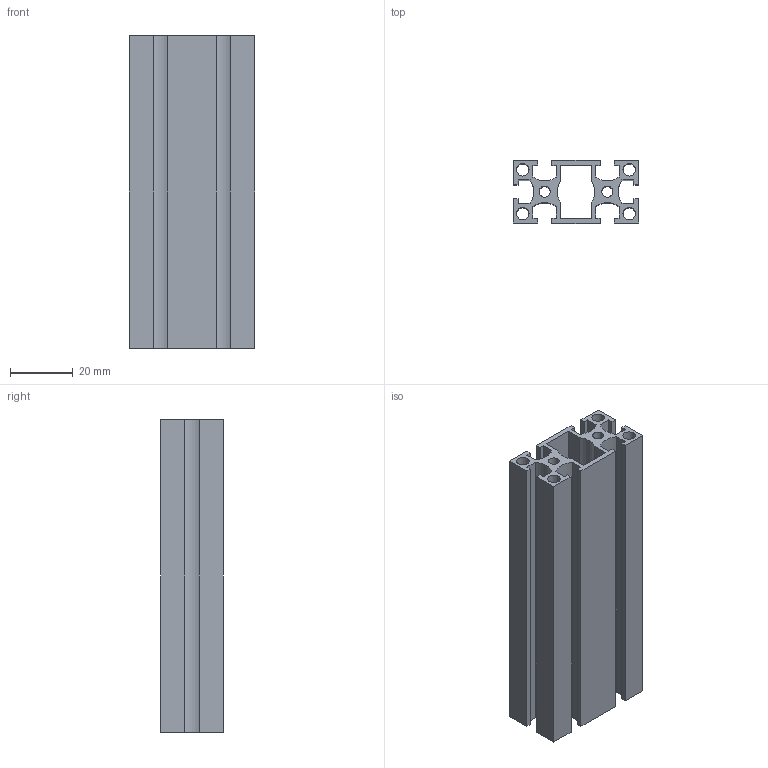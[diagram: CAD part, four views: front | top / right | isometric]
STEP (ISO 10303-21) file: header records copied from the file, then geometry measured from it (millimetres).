
FILE_DESCRIPTION(/* description */ ('Unknown'),/* implementation_level */ '2;1');
FILE_NAME(/* name */ 'NM2040',/* time_stamp */ '2026-08-31T11:05:27+08:00',/* author */ ('Unknown'),/* organization */ ('Unknown'),/* preprocessor_version */ 'ST-DEVELOPER v16.7',/* originating_system */ 'DEX',/* authorisation */ $);
FILE_SCHEMA (('AUTOMOTIVE_DESIGN {1 0 10303 214 3 1 1}'));
Length unit declared in the file: millimetre
Products named in the file (1): 2040-
Bounding box: 40 x 20 x 100 mm (x, y, z)
Volume: 30314.1 mm3; surface area: 35578.6 mm2
Topology: 1 solids, 1 shells, 68 faces, 198 edges, 132 vertices
Faces by surface type: plane 54, cylinder 14
Full cylindrical faces by diameter (mm): 3.5 x2, 4 x4
Entity records: 2258 total; most frequent: CARTESIAN_POINT 393, ORIENTED_EDGE 384, DIRECTION 358, EDGE_CURVE 192, LINE 164, VECTOR 164, VERTEX_POINT 132, AXIS2_PLACEMENT_3D 97
